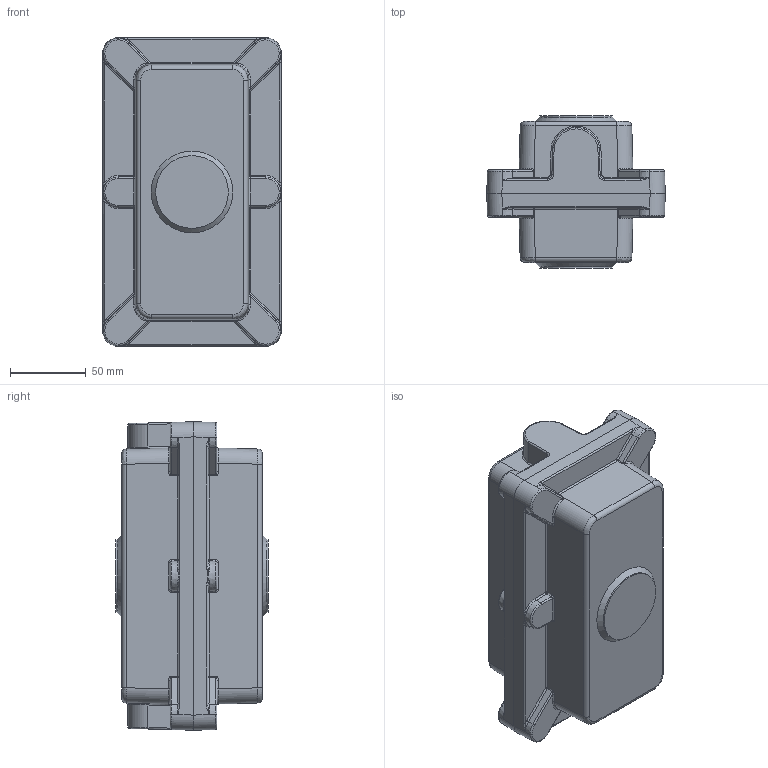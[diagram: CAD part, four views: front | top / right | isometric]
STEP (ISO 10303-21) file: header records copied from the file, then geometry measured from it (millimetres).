
FILE_DESCRIPTION(('STEP AP203'), '1');
FILE_NAME('栖闉罻_扻豵鵨 珃3-02', '', ('UNSPECIFIED'), ('UNSPECIFIED'), 'C3D Converter', 'C3D Toolkit', '');
FILE_SCHEMA(('CONFIG_CONTROL_DESIGN'));
Length unit declared in the file: millimetre
Products named in the file (3): ПУ3-01 (РЧЗ); ПУ3-02 (РЧЗ)
Assembly tree (2 placements, depth 2):
  (unnamed)
    ПУ3-01 (РЧЗ)
    ПУ3-02 (РЧЗ)
Bounding box: 117.9 x 101 x 203.8 mm (x, y, z)
Volume: 777707.9 mm3; surface area: 177314.3 mm2
Topology: 2 solids, 2 shells, 723 faces, 1729 edges, 967 vertices
Faces by surface type: bspline 248, cylinder 242, plane 140, torus 60, cone 31, sphere 2
Full cylindrical faces by diameter (mm): 48 x2
Entity records: 62587 total; most frequent: CARTESIAN_POINT 42220, ORIENTED_EDGE 3350, DIRECTION 2395, EDGE_CURVE 1675, VERTEX_POINT 967, AXIS2_PLACEMENT_3D 919, EDGE_LOOP 734, FACE_BOUND 726
